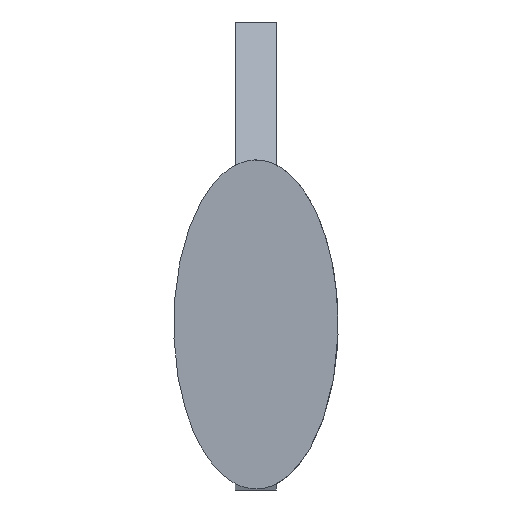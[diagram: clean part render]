
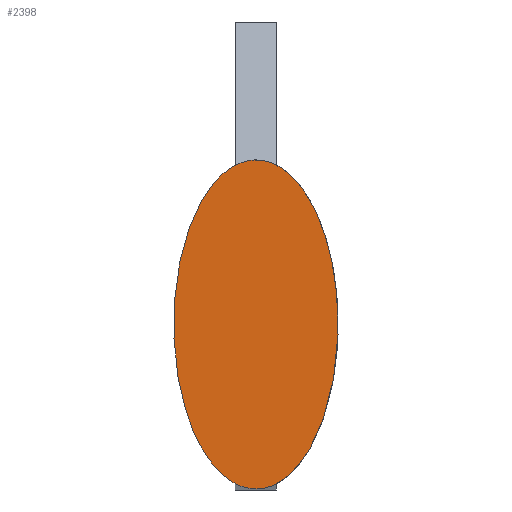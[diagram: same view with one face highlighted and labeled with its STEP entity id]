
A CAD part, front view. The second image highlights one B-rep face of the part: STEP entity #2398.
In plain terms, the highlighted planar face has unit normal (0, -1, 0).
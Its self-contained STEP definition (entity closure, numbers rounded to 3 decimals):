
#31=ELLIPSE('',#2506,300.,150.);
#275=FACE_OUTER_BOUND('',#407,.T.);
#407=EDGE_LOOP('',(#2103));
#1113=VERTEX_POINT('',#4113);
#1443=EDGE_CURVE('',#1113,#1113,#31,.T.);
#2103=ORIENTED_EDGE('',*,*,#1443,.F.);
#2182=PLANE('',#2507);
#2398=ADVANCED_FACE('',(#275),#2182,.F.);
#2506=AXIS2_PLACEMENT_3D('',#4115,#2921,#2922);
#2507=AXIS2_PLACEMENT_3D('',#4116,#2923,#2924);
#2921=DIRECTION('center_axis',(0.,1.,0.));
#2922=DIRECTION('ref_axis',(0.,0.,1.));
#2923=DIRECTION('center_axis',(0.,1.,0.));
#2924=DIRECTION('ref_axis',(0.,0.,1.));
#4113=CARTESIAN_POINT('',(0.,0.,-300.));
#4115=CARTESIAN_POINT('Origin',(0.,0.,0.));
#4116=CARTESIAN_POINT('Origin',(0.,0.,0.));
